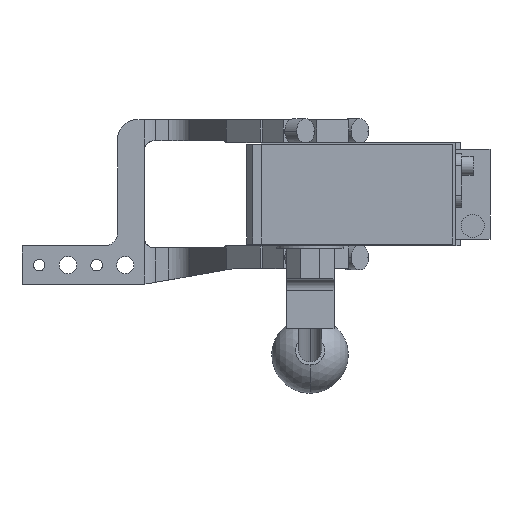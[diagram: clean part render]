
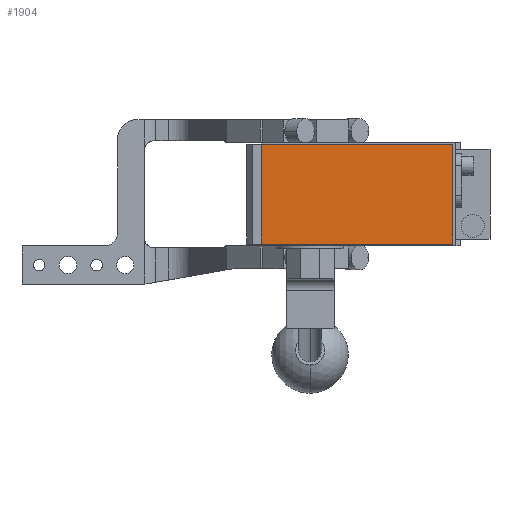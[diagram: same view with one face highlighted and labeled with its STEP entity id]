
A CAD part, front view. The second image highlights one B-rep face of the part: STEP entity #1904.
In plain terms, the highlighted planar face has unit normal (0, -1, 0).
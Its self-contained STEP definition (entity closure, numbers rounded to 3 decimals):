
#652 = CARTESIAN_POINT ( 'NONE',  ( 81., -286.5, 26. ) ) ;
#786 = LINE ( 'NONE', #12385, #9201 ) ;
#1469 = VERTEX_POINT ( 'NONE', #6918 ) ;
#1758 = ORIENTED_EDGE ( 'NONE', *, *, #8739, .T. ) ;
#1888 = DIRECTION ( 'NONE',  ( 0., 0., -1. ) ) ;
#1894 = EDGE_CURVE ( 'NONE', #5857, #1469, #14221, .T. ) ;
#1895 = VECTOR ( 'NONE', #7115, 1000. ) ;
#1904 = ADVANCED_FACE ( 'NONE', ( #14139 ), #11839, .T. ) ;
#2216 = EDGE_CURVE ( 'NONE', #1469, #11703, #8891, .T. ) ;
#2254 = ORIENTED_EDGE ( 'NONE', *, *, #2216, .T. ) ;
#2567 = CARTESIAN_POINT ( 'NONE',  ( -19., -286.5, 26. ) ) ;
#2946 = ORIENTED_EDGE ( 'NONE', *, *, #12364, .T. ) ;
#3730 = CARTESIAN_POINT ( 'NONE',  ( -19., -286.5, -26. ) ) ;
#5655 = VECTOR ( 'NONE', #6527, 1000. ) ;
#5857 = VERTEX_POINT ( 'NONE', #10619 ) ;
#6427 = VECTOR ( 'NONE', #9821, 1000. ) ;
#6527 = DIRECTION ( 'NONE',  ( 0., 0., 1. ) ) ;
#6622 = ORIENTED_EDGE ( 'NONE', *, *, #1894, .T. ) ;
#6773 = CARTESIAN_POINT ( 'NONE',  ( 81., -286.5, 26. ) ) ;
#6918 = CARTESIAN_POINT ( 'NONE',  ( 81., -286.5, -26. ) ) ;
#7115 = DIRECTION ( 'NONE',  ( 1., 0., 0. ) ) ;
#8568 = VERTEX_POINT ( 'NONE', #2567 ) ;
#8632 = DIRECTION ( 'NONE',  ( 0., -1., 0. ) ) ;
#8739 = EDGE_CURVE ( 'NONE', #11703, #8568, #8751, .T. ) ;
#8751 = LINE ( 'NONE', #13399, #6427 ) ;
#8891 = LINE ( 'NONE', #652, #5655 ) ;
#9201 = VECTOR ( 'NONE', #11147, 1000. ) ;
#9451 = EDGE_LOOP ( 'NONE', ( #2946, #6622, #2254, #1758 ) ) ;
#9821 = DIRECTION ( 'NONE',  ( -1., 0., 0. ) ) ;
#10619 = CARTESIAN_POINT ( 'NONE',  ( -19., -286.5, -26. ) ) ;
#10677 = AXIS2_PLACEMENT_3D ( 'NONE', #10912, #8632, #1888 ) ;
#10912 = CARTESIAN_POINT ( 'NONE',  ( 0., -286.5, 0. ) ) ;
#11147 = DIRECTION ( 'NONE',  ( 0., 0., -1. ) ) ;
#11703 = VERTEX_POINT ( 'NONE', #6773 ) ;
#11839 = PLANE ( 'NONE',  #10677 ) ;
#12364 = EDGE_CURVE ( 'NONE', #8568, #5857, #786, .T. ) ;
#12385 = CARTESIAN_POINT ( 'NONE',  ( -19., -286.5, 26. ) ) ;
#13399 = CARTESIAN_POINT ( 'NONE',  ( -19., -286.5, 26. ) ) ;
#14139 = FACE_OUTER_BOUND ( 'NONE', #9451, .T. ) ;
#14221 = LINE ( 'NONE', #3730, #1895 ) ;
